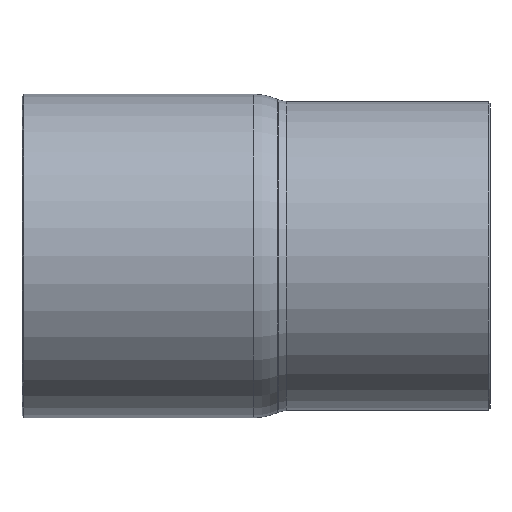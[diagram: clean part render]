
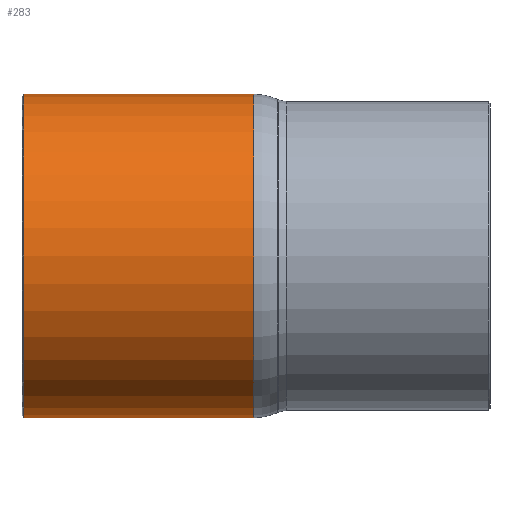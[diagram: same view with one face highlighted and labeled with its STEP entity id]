
A CAD part, front view. The second image highlights one B-rep face of the part: STEP entity #283.
In plain terms, the highlighted cylindrical face has radius 17.462 mm (diameter 34.925 mm), a full revolution.
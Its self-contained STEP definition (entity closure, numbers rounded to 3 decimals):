
#252=CARTESIAN_POINT('',(-31.1,17.462,0.));
#253=VERTEX_POINT('',#252);
#254=CARTESIAN_POINT('',(-31.1,0.0,0.0));
#255=DIRECTION('',(-1.0,0.0,0.0));
#256=DIRECTION('',(0.0,-1.0,0.0));
#257=AXIS2_PLACEMENT_3D('',#254,#255,#256);
#258=CIRCLE('',#257,17.462);
#259=EDGE_CURVE('',#253,#253,#258,.T.);
#264=CARTESIAN_POINT('',(-18.8,0.0,0.0));
#265=DIRECTION('',(1.0,0.0,0.0));
#266=DIRECTION('',(0.0,1.0,0.0));
#267=AXIS2_PLACEMENT_3D('',#264,#265,#266);
#268=CYLINDRICAL_SURFACE('',#267,17.462);
#269=CARTESIAN_POINT('',(-6.3,17.462,0.0));
#270=VERTEX_POINT('',#269);
#271=CARTESIAN_POINT('',(-6.3,0.0,0.0));
#272=DIRECTION('',(1.0,0.0,0.0));
#273=DIRECTION('',(0.0,1.0,0.0));
#274=AXIS2_PLACEMENT_3D('',#271,#272,#273);
#275=CIRCLE('',#274,17.462);
#276=EDGE_CURVE('',#270,#270,#275,.T.);
#277=ORIENTED_EDGE('',*,*,#276,.F.);
#278=EDGE_LOOP('',(#277));
#279=FACE_OUTER_BOUND('',#278,.T.);
#280=ORIENTED_EDGE('',*,*,#259,.F.);
#281=EDGE_LOOP('',(#280));
#282=FACE_BOUND('',#281,.T.);
#283=ADVANCED_FACE('',(#279,#282),#268,.T.);
